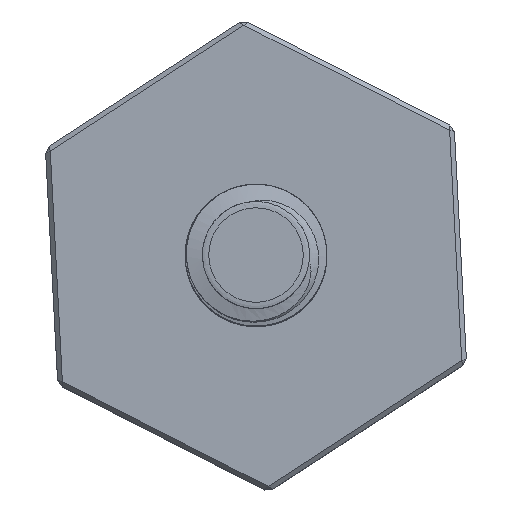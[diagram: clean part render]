
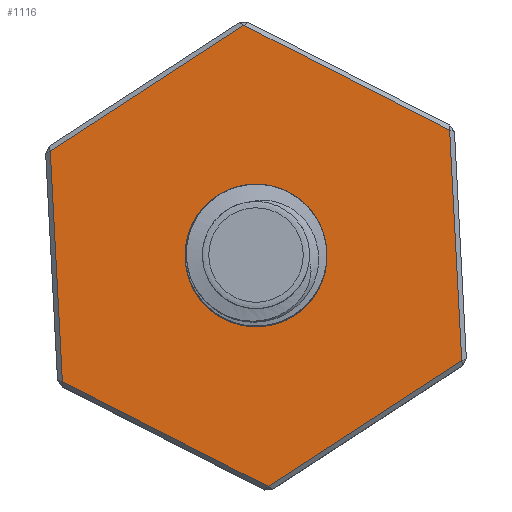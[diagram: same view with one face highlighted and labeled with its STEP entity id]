
A CAD part, top view. The second image highlights one B-rep face of the part: STEP entity #1116.
In plain terms, the highlighted planar face has unit normal (0, 0, 1).
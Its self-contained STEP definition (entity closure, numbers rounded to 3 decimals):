
#240=ORIENTED_EDGE('',*,*,#471,.T.);
#241=ORIENTED_EDGE('',*,*,#472,.T.);
#242=ORIENTED_EDGE('',*,*,#473,.T.);
#243=ORIENTED_EDGE('',*,*,#474,.T.);
#244=ORIENTED_EDGE('',*,*,#475,.T.);
#245=ORIENTED_EDGE('',*,*,#476,.T.);
#471=EDGE_CURVE('',#594,#595,#676,.T.);
#472=EDGE_CURVE('',#595,#596,#677,.T.);
#473=EDGE_CURVE('',#596,#597,#678,.T.);
#474=EDGE_CURVE('',#597,#598,#679,.T.);
#475=EDGE_CURVE('',#598,#599,#680,.T.);
#476=EDGE_CURVE('',#599,#594,#681,.T.);
#594=VERTEX_POINT('',#8743);
#595=VERTEX_POINT('',#8744);
#596=VERTEX_POINT('',#8746);
#597=VERTEX_POINT('',#8748);
#598=VERTEX_POINT('',#8750);
#599=VERTEX_POINT('',#8752);
#676=LINE('',#8742,#793);
#677=LINE('',#8745,#794);
#678=LINE('',#8747,#795);
#679=LINE('',#8749,#796);
#680=LINE('',#8751,#797);
#681=LINE('',#8753,#798);
#793=VECTOR('',#1429,1000.);
#794=VECTOR('',#1430,1000.);
#795=VECTOR('',#1431,1000.);
#796=VECTOR('',#1432,1000.);
#797=VECTOR('',#1433,1000.);
#798=VECTOR('',#1434,1000.);
#890=EDGE_LOOP('',(#240,#241,#242,#243,#244,#245));
#976=FACE_BOUND('',#890,.T.);
#1044=PLANE('',#1219);
#1116=ADVANCED_FACE('',(#976),#1044,.T.);
#1219=AXIS2_PLACEMENT_3D('',#8741,#1427,#1428);
#1427=DIRECTION('',(0.,0.,1.));
#1428=DIRECTION('',(1.,0.,0.));
#1429=DIRECTION('',(1.,0.,0.));
#1430=DIRECTION('',(0.5,0.866,0.));
#1431=DIRECTION('',(-0.5,0.866,0.));
#1432=DIRECTION('',(-1.,0.,0.));
#1433=DIRECTION('',(-0.5,-0.866,0.));
#1434=DIRECTION('',(0.5,-0.866,0.));
#8741=CARTESIAN_POINT('',(5.,8.66,34.885));
#8742=CARTESIAN_POINT('',(5.,-8.46,34.885));
#8743=CARTESIAN_POINT('',(-4.885,-8.46,34.885));
#8744=CARTESIAN_POINT('',(4.885,-8.46,34.885));
#8745=CARTESIAN_POINT('',(9.827,0.1,34.885));
#8746=CARTESIAN_POINT('',(9.769,0.,34.885));
#8747=CARTESIAN_POINT('',(4.827,8.56,34.885));
#8748=CARTESIAN_POINT('',(4.885,8.46,34.885));
#8749=CARTESIAN_POINT('',(-5.,8.46,34.885));
#8750=CARTESIAN_POINT('',(-4.885,8.46,34.885));
#8751=CARTESIAN_POINT('',(-9.827,-0.1,34.885));
#8752=CARTESIAN_POINT('',(-9.769,0.,34.885));
#8753=CARTESIAN_POINT('',(-4.827,-8.56,34.885));
